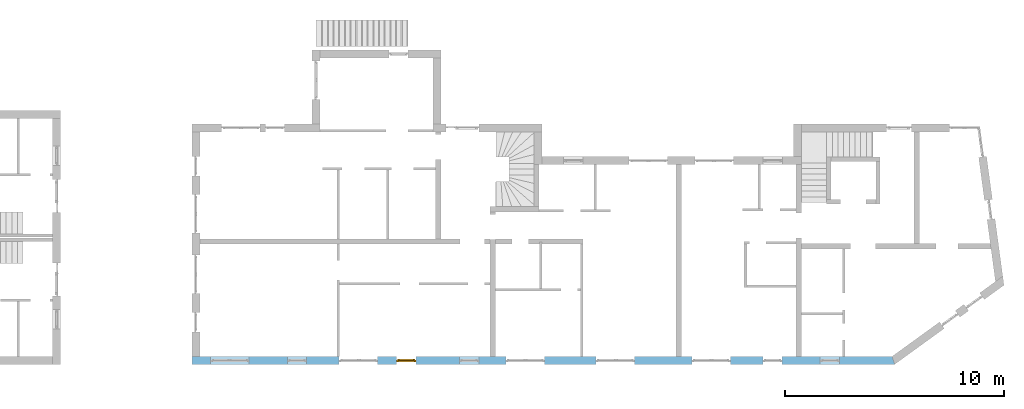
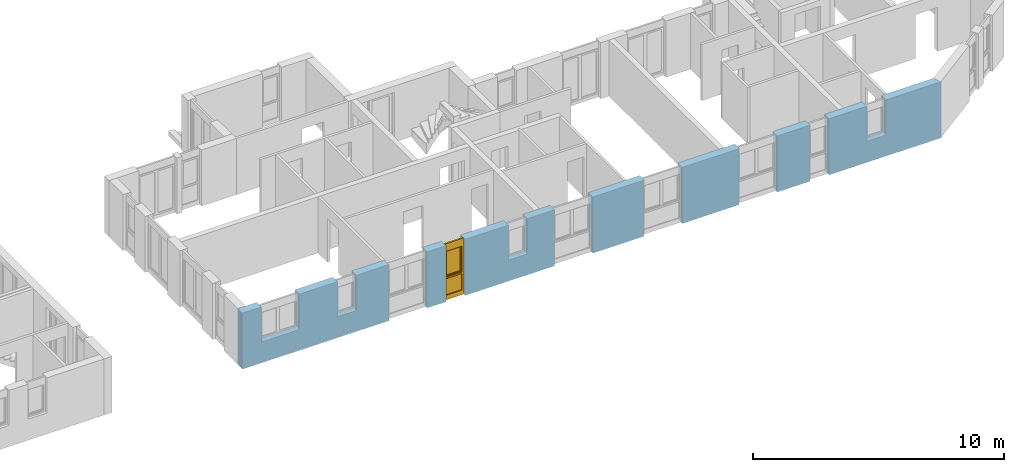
# One storey, part 28 of 41: 1 window, 10 openings, plus 1 element that does not belong to this part.
"""IFC2X3 building model written with IfcOpenShell, lengths in millimetres."""

import ifcopenshell
import ifcopenshell.guid

model = None  # the IFC model being written
_history = None  # IfcOwnerHistory: only IFC2X3 demands one
_inside = {}  # id of a spatial element -> (the spatial element, [elements in it])
_under = {}  # id of a project, library or spatial element -> (it, [spatial elements below it])
_declared = {}  # id of a project -> (the project, [libraries it declares])
_typed = {}  # id of a type object -> (the type object, [elements of that type])
_made_of = {}  # id of a material, layer set ... -> (it, [elements and type objects made of it])


def new_model(schema):
    """Start an empty IFC model of exactly this schema.

    Asked for "IFC4X3", IfcOpenShell would pick the latest addendum, in which some entities
    have other attributes; the version numbers below select the first issue.
    IFC2X3 requires an IfcOwnerHistory on every rooted entity: one is made here for all.
    """
    global model, _history
    if schema == "IFC4X3":
        model = ifcopenshell.file(schema_version=(4, 3, 0, 0))
    else:
        model = ifcopenshell.file(schema=schema)
    _inside.clear()
    _under.clear()
    _declared.clear()
    _typed.clear()
    _made_of.clear()
    _history = None
    if model.schema == "IFC2X3":
        org = make("IfcOrganization", Name="unknown")
        user = make(
            "IfcPersonAndOrganization",
            ThePerson=make("IfcPerson", FamilyName="unknown"),
            TheOrganization=org,
        )
        app = make(
            "IfcApplication",
            ApplicationDeveloper=org,
            Version="unknown",
            ApplicationFullName="unknown",
            ApplicationIdentifier="unknown",
        )
        _history = make(
            "IfcOwnerHistory",
            OwningUser=user,
            OwningApplication=app,
            ChangeAction="ADDED",
            CreationDate=0,
        )
    return model


def make(cls, **values):
    """One entity of the class cls with the attributes given. An attribute that is None is left unset."""
    return model.create_entity(
        cls, **{name: value for name, value in values.items() if value is not None}
    )


def entity(cls, *values):
    """Any entity or typed value of the class cls, its attributes in the order of the schema. None: left unset."""
    e = model.create_entity(cls)
    for i, value in enumerate(values):
        if value is not None:
            e[i] = value
    return e


def rooted(cls, **values):
    """An entity with a GlobalId (a new one), such as an element, a storey or a relation."""
    return make(cls, GlobalId=ifcopenshell.guid.new(), OwnerHistory=_history, **values)


def si_unit(unit_type, name, prefix=None):
    """IfcSIUnit, for example si_unit("LENGTHUNIT", "METRE", prefix="MILLI")."""
    return make("IfcSIUnit", UnitType=unit_type, Prefix=prefix, Name=name)


def converted_unit(unit_type, name, factor, base, dimensions=None, offset=None):
    """IfcConversionBasedUnit, such as the inch: factor (a typed value) times the base unit."""
    return make(
        "IfcConversionBasedUnit"
        if offset is None
        else "IfcConversionBasedUnitWithOffset",
        ConversionOffset=offset,
        Dimensions=None
        if dimensions is None
        else entity("IfcDimensionalExponents", *dimensions),
        UnitType=unit_type,
        Name=name,
        ConversionFactor=make(
            "IfcMeasureWithUnit", ValueComponent=factor, UnitComponent=base
        ),
    )


def assignment(units):
    """IfcUnitAssignment: the units of a project."""
    return None if units is None else make("IfcUnitAssignment", Units=units)


def point(xyz):
    """IfcCartesianPoint."""
    return None if xyz is None else make("IfcCartesianPoint", Coordinates=xyz)


def direction(xyz):
    """IfcDirection."""
    return None if xyz is None else make("IfcDirection", DirectionRatios=xyz)


def frame(location, z_axis=None, x_axis=None):
    """IfcAxis2Placement3D, a coordinate frame: its origin and axes. An axis left out is left unset."""
    return make(
        "IfcAxis2Placement3D",
        Location=point(location),
        Axis=direction(z_axis),
        RefDirection=direction(x_axis),
    )


def frame_2d(location, x_axis=None):
    """IfcAxis2Placement2D, a coordinate frame in the plane: its origin and x axis."""
    return make(
        "IfcAxis2Placement2D", Location=point(location), RefDirection=direction(x_axis)
    )


def origin():
    """The frame at (0, 0, 0) with its axes left unset."""
    return frame((0.0, 0.0, 0.0))


def origin_with_axes():
    """The frame at (0, 0, 0) with the z axis (0, 0, 1) and the x axis (1, 0, 0) written out."""
    return frame((0.0, 0.0, 0.0), z_axis=(0.0, 0.0, 1.0), x_axis=(1.0, 0.0, 0.0))


def place(relative_to, where):
    """IfcLocalPlacement: puts the frame where relative to a parent placement (None: the world)."""
    return make(
        "IfcLocalPlacement", PlacementRelTo=relative_to, RelativePlacement=where
    )


def context(
    kind, dimensions, precision=None, world=None, true_north=None, identifier=None
):
    """IfcGeometricRepresentationContext, for example the 3D "Model" context."""
    return make(
        "IfcGeometricRepresentationContext",
        ContextIdentifier=identifier,
        ContextType=kind,
        CoordinateSpaceDimension=dimensions,
        Precision=precision,
        WorldCoordinateSystem=world,
        TrueNorth=true_north,
    )


def subcontext(parent, identifier, kind, view, scale=None):
    """IfcGeometricRepresentationSubContext, for example "Body" below "Model"."""
    return make(
        "IfcGeometricRepresentationSubContext",
        ContextIdentifier=identifier,
        ContextType=kind,
        ParentContext=parent,
        TargetScale=scale,
        TargetView=view,
    )


def project(units=None, contexts=None):
    """IfcProject with its units and contexts."""
    return rooted(
        "IfcProject",
        Name="project",
        RepresentationContexts=contexts,
        UnitsInContext=assignment(units),
    )


def spatial(cls, under=None, at=None, **own):
    """A site, building, storey or space (cls), placed at a placement, below another one or the project."""
    s = rooted(cls, ObjectPlacement=at, **own)
    if under is not None:
        _under.setdefault(under.id(), (under, []))[1].append(s)
    return s


def polyline(points):
    """IfcPolyline through the points."""
    return make("IfcPolyline", Points=[point(p) for p in points])


def profile(cls, at=None, kind="AREA", **sizes):
    """A parametric profile (cls). Its sizes go by their IFC names, for example OverallWidth=200.0."""
    return make(cls, ProfileType=kind, Position=at, **sizes)


def rectangle(**sizes):
    """IfcRectangleProfileDef."""
    return profile("IfcRectangleProfileDef", **sizes)


def outline(outer, holes=None, kind="AREA"):
    """IfcArbitraryClosedProfileDef: a profile drawn as a closed curve; with holes, ...WithVoids."""
    if holes is None:
        return make("IfcArbitraryClosedProfileDef", ProfileType=kind, OuterCurve=outer)
    return make(
        "IfcArbitraryProfileDefWithVoids",
        ProfileType=kind,
        OuterCurve=outer,
        InnerCurves=holes,
    )


def extrude(swept, where, along, depth):
    """IfcExtrudedAreaSolid: the profile swept, set in the frame where, extruded along a direction by depth."""
    return make(
        "IfcExtrudedAreaSolid",
        SweptArea=swept,
        Position=where,
        ExtrudedDirection=direction(along),
        Depth=depth,
    )


def faces_of(points, faces, orient=None, outer=None):
    """IfcFace entities. A face is a list of loops; a loop is a list of indices into points, from 0.

    orient and outer hold one flag for each loop. By default every Orientation is true, the
    first loop of a face is its IfcFaceOuterBound and the others are IfcFaceBound.
    """
    made = []
    for i, loops in enumerate(faces):
        bounds = []
        for j, loop in enumerate(loops):
            is_outer = j == 0 if outer is None else outer[i][j]
            bounds.append(
                make(
                    "IfcFaceOuterBound" if is_outer else "IfcFaceBound",
                    Bound=make("IfcPolyLoop", Polygon=[points[k] for k in loop]),
                    Orientation=True if orient is None else orient[i][j],
                )
            )
        made.append(make("IfcFace", Bounds=bounds))
    return made


def faceted_brep(points, faces, orient=None, outer=None, voids=None):
    """IfcFacetedBrep: a solid bounded by flat faces; with voids (closed shells), ...WithVoids."""
    shared = [point(p) for p in points]
    hull = make("IfcClosedShell", CfsFaces=faces_of(shared, faces, orient, outer))
    if voids is None:
        return make("IfcFacetedBrep", Outer=hull)
    return make(
        "IfcFacetedBrepWithVoids",
        Outer=hull,
        Voids=[
            make(cls, CfsFaces=faces_of(shared, fs, o, b)) for cls, fs, o, b in voids
        ],
    )


def shape(context_of_items, identifier, shape_type, items):
    """IfcShapeRepresentation: the items that make up one representation, for example the "Body"."""
    return make(
        "IfcShapeRepresentation",
        ContextOfItems=context_of_items,
        RepresentationIdentifier=identifier,
        RepresentationType=shape_type,
        Items=items,
    )


def material(Name=None, Category=None):
    """IfcMaterial."""
    return make("IfcMaterial", Name=Name, Category=Category)


def layer(
    of_material, thickness, ventilated=None, Name=None, Category=None, Priority=None
):
    """IfcMaterialLayer: one layer of a wall or slab, of a material (None: an air gap)."""
    return make(
        "IfcMaterialLayer",
        Material=of_material,
        LayerThickness=thickness,
        IsVentilated=ventilated,
        Name=Name,
        Category=Category,
        Priority=Priority,
    )


def layer_set(layers, Name=None):
    """IfcMaterialLayerSet."""
    return make("IfcMaterialLayerSet", MaterialLayers=layers, LayerSetName=Name)


def layer_usage(for_layer_set, set_direction, sense, offset, extent=None):
    """IfcMaterialLayerSetUsage: how a layer set lies in its element."""
    return make(
        "IfcMaterialLayerSetUsage",
        ForLayerSet=for_layer_set,
        LayerSetDirection=set_direction,
        DirectionSense=sense,
        OffsetFromReferenceLine=offset,
        ReferenceExtent=extent,
    )


def made_of(thing, what):
    """Note that an element or type object is made of a material, layer set ...; save() writes the relation."""
    if what is not None:
        _made_of.setdefault(what.id(), (what, []))[1].append(thing)
    return thing


def type_object(cls, material=None, **own):
    """A type object (cls), such as IfcWallType, which elements share."""
    return made_of(rooted(cls, **own), material)


def element(
    cls,
    number,
    at=None,
    inside=None,
    cuts=None,
    type_object=None,
    material=None,
    context=None,
    identifier="Body",
    shape_type=None,
    held_by="IfcProductDefinitionShape",
    body=None,
    shapes=None,
    **own,
):
    """One element of the class cls, such as IfcWall. Its Tag is "e" and its number.

    at: its placement. inside: the storey or other place that contains it. cuts: it is an
    opening in that element (IfcRelVoidsElement). A single representation is given by context,
    identifier, shape_type and body (its items); several are given by shapes. held_by: the class
    of the entity that holds the representations. save() writes the other relations.
    """
    e = rooted(cls, Tag="e%d" % number, ObjectPlacement=at, **own)
    if body is not None:
        shapes = [shape(context, identifier, shape_type, body)]
    if shapes is not None:
        e.Representation = make(held_by, Representations=shapes)
    if inside is not None:
        _inside.setdefault(inside.id(), (inside, []))[1].append(e)
    if cuts is not None:
        rooted(
            "IfcRelVoidsElement", RelatingBuildingElement=cuts, RelatedOpeningElement=e
        )
    if type_object is not None:
        _typed.setdefault(type_object.id(), (type_object, []))[1].append(e)
    return made_of(e, material)


def fill(opening, filler):
    """IfcRelFillsElement: the door or window that sits in an opening."""
    return rooted(
        "IfcRelFillsElement",
        RelatingOpeningElement=opening,
        RelatedBuildingElement=filler,
    )


def aggregate(whole, parts):
    """IfcRelAggregates: a whole, such as a stair, and the parts it consists of."""
    return rooted("IfcRelAggregates", RelatingObject=whole, RelatedObjects=parts)


def save(model, path):
    """Write the relations noted so far, then the file.

    IfcRelAggregates (storeys below a building ...), IfcRelContainedInSpatialStructure (elements
    in a storey), IfcRelDefinesByType, IfcRelAssociatesMaterial and IfcRelDeclares: one each for
    every whole, place, type object, material and project.
    """
    for whole, parts in _under.values():
        aggregate(whole, parts)
    for where, things in _inside.values():
        rooted(
            "IfcRelContainedInSpatialStructure",
            RelatedElements=things,
            RelatingStructure=where,
        )
    for kind, things in _typed.values():
        rooted("IfcRelDefinesByType", RelatedObjects=things, RelatingType=kind)
    for what, things in _made_of.values():
        rooted("IfcRelAssociatesMaterial", RelatedObjects=things, RelatingMaterial=what)
    for by, libraries in _declared.values():
        rooted("IfcRelDeclares", RelatingContext=by, RelatedDefinitions=libraries)
    model.write(path)


model = new_model("IFC2X3")

# Units and contexts
model_context = context("Model", 3, precision=1e-05, world=origin())
body_context = subcontext(model_context, "Body", "Model", "MODEL_VIEW")
ifc_project = project(units=[si_unit("LENGTHUNIT", "METRE", prefix="MILLI"), converted_unit("PLANEANGLEUNIT", "DEGREE", entity("IfcPlaneAngleMeasure", 0.0174532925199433), si_unit("PLANEANGLEUNIT", "RADIAN"), dimensions=[0, 0, 0, 0, 0, 0, 0]), si_unit("AREAUNIT", "SQUARE_METRE"), si_unit("VOLUMEUNIT", "CUBIC_METRE")], contexts=[model_context])

# Building, storey
building_placement = place(None, origin())
building = spatial("IfcBuilding", under=ifc_project, at=building_placement, Name="Gebäude", CompositionType="ELEMENT")
storey_placement = place(building_placement, frame((0.0, 0.0, -200.0), z_axis=(0.0, 0.0, 1.0), x_axis=(1.0, 0.0, 0.0)))
storey = spatial("IfcBuildingStorey", under=building, at=storey_placement, Name="EG.- Grundriss", CompositionType="ELEMENT", Elevation=-200.0)

# Wall, openings, window
ifc_material_1 = material(Name="Poroton")
ifc_layer = layer(ifc_material_1, 365.0000000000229)
ifc_layer_set = layer_set([ifc_layer])
ifc_layer_usage = layer_usage(ifc_layer_set, "AXIS2", "POSITIVE", 0.0)
wall_placement = place(storey_placement, frame((148357.7928067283, 125274.8877324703, 0.0), z_axis=(0.0, 0.0, 1.0), x_axis=(1.0, -2.749268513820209e-11, 0.0)))
wall = element("IfcWallStandardCase", 1, at=wall_placement, inside=storey, material=ifc_layer_usage, Name="<Unnamed Element>", context=body_context, shape_type="SweptSolid", body=[
    extrude(outline(polyline([(0.0, 0.0), (32144.99999877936, 0.0), (32026.74038666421, 365.0000000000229), (-1.003483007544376e-08, 365.0), (0.0, 0.0)])), origin_with_axes(), (0.0, 0.0, 1.0), 2730.0),
])
opening_1_placement = place(wall_placement, frame((28740.29648749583, -1.103025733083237e-10, 1020.0), z_axis=(0.0, 1.0, 0.0), x_axis=(0.0, 0.0, 1.0)))
element("IfcOpeningElement", 2, at=opening_1_placement, cuts=wall, Name="Fensteröffnung", ObjectType="Opening", context=body_context, shape_type="SweptSolid", body=[
    extrude(rectangle(XDim=1710.0, YDim=885.0, at=frame_2d((855.0, 442.5), x_axis=(1.0, 0.0))), origin_with_axes(), (0.0, 0.0, 1.0), 365.0000000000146),
])
opening_2_placement = place(wall_placement, frame((26115.29648749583, -1.048456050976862e-10, 0.0), z_axis=(0.0, 1.0, 0.0), x_axis=(0.0, 0.0, 1.0)))
element("IfcOpeningElement", 3, at=opening_2_placement, cuts=wall, Name="Fensteröffnung", ObjectType="Opening", context=body_context, shape_type="SweptSolid", body=[
    extrude(rectangle(XDim=2730.0, YDim=885.0, at=frame_2d((1365.0, 442.5), x_axis=(1.0, 0.0))), origin_with_axes(), (0.0, 0.0, 1.0), 365.0000000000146),
])
opening_3_placement = place(wall_placement, frame((22865.29648749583, -7.937975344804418e-11, 0.0), z_axis=(0.0, 1.0, 0.0), x_axis=(0.0, 0.0, 1.0)))
element("IfcOpeningElement", 4, at=opening_3_placement, cuts=wall, Name="Fensteröffnung", ObjectType="Opening", context=body_context, shape_type="SweptSolid", body=[
    extrude(rectangle(XDim=2730.0, YDim=1760.0, at=frame_2d((1365.0, 880.0), x_axis=(1.0, 0.0))), origin_with_axes(), (0.0, 0.0, 1.0), 365.0000000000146),
])
opening_4_placement = place(wall_placement, frame((18490.51063065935, -4.984640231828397e-11, 0.0), z_axis=(0.0, 1.0, 0.0), x_axis=(0.0, 0.0, 1.0)))
element("IfcOpeningElement", 5, at=opening_4_placement, cuts=wall, Name="Fensteröffnung", ObjectType="Opening", context=body_context, shape_type="SweptSolid", body=[
    extrude(rectangle(XDim=2730.0, YDim=1760.0, at=frame_2d((1365.0, 880.0), x_axis=(1.0, 0.0))), origin_with_axes(), (0.0, 0.0, 1.0), 365.0000000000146),
])
opening_5_placement = place(wall_placement, frame((14365.26291871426, -7.302655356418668e-11, 0.0), z_axis=(0.0, 1.0, 0.0), x_axis=(0.0, 0.0, 1.0)))
element("IfcOpeningElement", 6, at=opening_5_placement, cuts=wall, Name="Fensteröffnung", ObjectType="Opening", context=body_context, shape_type="SweptSolid", body=[
    extrude(rectangle(XDim=2730.0, YDim=1760.0, at=frame_2d((1365.0, 880.0), x_axis=(1.0, 0.0))), origin_with_axes(), (0.0, 0.0, 1.0), 365.0000000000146),
])
opening_6_placement = place(wall_placement, frame((12240.0, -5.296897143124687e-11, 1020.0), z_axis=(0.0, 1.0, 0.0), x_axis=(0.0, 0.0, 1.0)))
element("IfcOpeningElement", 7, at=opening_6_placement, cuts=wall, Name="Fensteröffnung", ObjectType="Opening", context=body_context, shape_type="SweptSolid", body=[
    extrude(rectangle(XDim=1710.0, YDim=885.0, at=frame_2d((855.0, 442.5), x_axis=(1.0, 0.0))), origin_with_axes(), (0.0, 0.0, 1.0), 365.0000000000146),
])
opening_7_placement = place(wall_placement, frame((9365.0, -3.659806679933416e-11, 0.0), z_axis=(0.0, 1.0, 0.0), x_axis=(0.0, 0.0, 1.0)))
opening_7 = element("IfcOpeningElement", 8, at=opening_7_placement, cuts=wall, Name="Fensteröffnung", ObjectType="Opening", context=body_context, shape_type="SweptSolid", body=[
    extrude(rectangle(XDim=2730.0, YDim=885.0, at=frame_2d((1365.0, 442.5), x_axis=(1.0, 0.0))), origin_with_axes(), (0.0, 0.0, 1.0), 365.0000000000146),
])
opening_8_placement = place(wall_placement, frame((6740.0, -3.114109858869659e-11, 0.0), z_axis=(0.0, 1.0, 0.0), x_axis=(0.0, 0.0, 1.0)))
element("IfcOpeningElement", 9, at=opening_8_placement, cuts=wall, Name="Fensteröffnung", ObjectType="Opening", context=body_context, shape_type="SweptSolid", body=[
    extrude(rectangle(XDim=2730.0, YDim=1760.0, at=frame_2d((1365.0, 880.0), x_axis=(1.0, 0.0))), origin_with_axes(), (0.0, 0.0, 1.0), 365.0000000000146),
])
opening_9_placement = place(wall_placement, frame((4365.0, -7.494236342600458e-12, 1020.0), z_axis=(0.0, 1.0, 0.0), x_axis=(0.0, 0.0, 1.0)))
element("IfcOpeningElement", 10, at=opening_9_placement, cuts=wall, Name="Fensteröffnung", ObjectType="Opening", context=body_context, shape_type="SweptSolid", body=[
    extrude(rectangle(XDim=1710.0, YDim=885.0, at=frame_2d((855.0, 442.5), x_axis=(1.0, 0.0))), origin_with_axes(), (0.0, 0.0, 1.0), 365.0000000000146),
])
opening_10_placement = place(wall_placement, frame((865.0, -2.182787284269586e-13, 1020.0), z_axis=(0.0, 1.0, 0.0), x_axis=(0.0, 0.0, 1.0)))
element("IfcOpeningElement", 11, at=opening_10_placement, cuts=wall, Name="Fensteröffnung", ObjectType="Opening", context=body_context, shape_type="SweptSolid", body=[
    extrude(rectangle(XDim=1710.0, YDim=1760.0, at=frame_2d((854.9999999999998, 880.0), x_axis=(1.0, 0.0))), origin_with_axes(), (0.0, 0.0, 1.0), 365.0000000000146),
])
ifc_material_2 = material()
window_style = type_object("IfcWindowStyle", Name="Fenster", ConstructionType="NOTDEFINED", OperationType="USERDEFINED", ParameterTakesPrecedence=False, Sizeable=False)
window_placement = place(opening_7_placement, frame((0.0, 0.0, 0.0), z_axis=(1.0, 0.0, 0.0), x_axis=(0.0, 1.0, 0.0)))
window = element("IfcWindow", 12, at=window_placement, inside=storey, type_object=window_style, material=ifc_material_2, Name="Fenster", OverallHeight=2730.0, OverallWidth=885.0, context=body_context, shape_type="Brep", body=[
    faceted_brep([(-1.221113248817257e-08, 199.9999999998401, 2730.0), (-1.221113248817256e-08, 199.9999999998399, -2.449293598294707e-15), (69.99999998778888, 200.0000000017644, -2.449293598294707e-15), (69.99999998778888, 200.0000000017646, 2730.0), (-1.001171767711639e-08, 119.9999999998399, 2.449293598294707e-15), (-1.00117176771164e-08, 119.9999999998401, 2730.0), (69.9999999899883, 120.0000000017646, 2730.0), (69.9999999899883, 120.0000000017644, 2.449293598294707e-15), (-1.221113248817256e-08, 199.9999999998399, -2.449293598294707e-15), (-1.221113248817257e-08, 199.9999999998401, 2730.0), (-1.00117176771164e-08, 119.9999999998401, 2730.0), (-1.001171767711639e-08, 119.9999999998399, 2.449293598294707e-15), (69.99999998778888, 200.0000000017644, -2.449293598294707e-15), (-1.221113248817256e-08, 199.9999999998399, -2.449293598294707e-15), (-1.001171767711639e-08, 119.9999999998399, 2.449293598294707e-15), (69.9999999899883, 120.0000000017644, 2.449293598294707e-15), (69.99999998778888, 200.0000000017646, 2730.0), (69.99999998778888, 200.0000000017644, -2.449293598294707e-15), (69.9999999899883, 120.0000000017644, 2.449293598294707e-15), (69.9999999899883, 120.0000000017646, 2730.0), (-1.221113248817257e-08, 199.9999999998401, 2730.0), (69.99999998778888, 200.0000000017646, 2730.0), (69.9999999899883, 120.0000000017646, 2730.0), (-1.00117176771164e-08, 119.9999999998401, 2730.0)], [[[0, 1, 2, 3]], [[4, 5, 6, 7]], [[8, 9, 10, 11]], [[12, 13, 14, 15]], [[16, 17, 18, 19]], [[20, 21, 22, 23]]], orient=[[False], [False], [False], [False], [False], [False]]),
    faceted_brep([(814.999999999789, 200.0000000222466, 2730.0), (814.999999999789, 200.0000000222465, -2.449293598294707e-15), (884.999999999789, 200.000000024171, -2.449293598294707e-15), (884.999999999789, 200.0000000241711, 2730.0), (815.0000000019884, 120.0000000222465, 2.449293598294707e-15), (815.0000000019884, 120.0000000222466, 2730.0), (885.0000000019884, 120.0000000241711, 2730.0), (885.0000000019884, 120.000000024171, 2.449293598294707e-15), (814.999999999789, 200.0000000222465, -2.449293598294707e-15), (814.999999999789, 200.0000000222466, 2730.0), (815.0000000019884, 120.0000000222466, 2730.0), (815.0000000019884, 120.0000000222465, 2.449293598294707e-15), (884.999999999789, 200.000000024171, -2.449293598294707e-15), (814.999999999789, 200.0000000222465, -2.449293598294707e-15), (815.0000000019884, 120.0000000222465, 2.449293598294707e-15), (885.0000000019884, 120.000000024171, 2.449293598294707e-15), (884.999999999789, 200.0000000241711, 2730.0), (884.999999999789, 200.000000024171, -2.449293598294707e-15), (885.0000000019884, 120.000000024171, 2.449293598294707e-15), (885.0000000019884, 120.0000000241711, 2730.0), (814.999999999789, 200.0000000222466, 2730.0), (884.999999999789, 200.0000000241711, 2730.0), (885.0000000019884, 120.0000000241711, 2730.0), (815.0000000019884, 120.0000000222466, 2730.0)], [[[0, 1, 2, 3]], [[4, 5, 6, 7]], [[8, 9, 10, 11]], [[12, 13, 14, 15]], [[16, 17, 18, 19]], [[20, 21, 22, 23]]], orient=[[False], [False], [False], [False], [False], [False]]),
    faceted_brep([(69.99999998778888, 200.0000000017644, 220.0), (69.99999998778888, 200.0000000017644, -2.449293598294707e-15), (814.999999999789, 200.0000000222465, -2.449293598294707e-15), (814.999999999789, 200.0000000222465, 220.0), (69.9999999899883, 120.0000000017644, 2.449293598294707e-15), (69.9999999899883, 120.0000000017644, 220.0), (815.0000000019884, 120.0000000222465, 220.0), (815.0000000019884, 120.0000000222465, 2.449293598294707e-15), (69.99999998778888, 200.0000000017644, -2.449293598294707e-15), (69.99999998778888, 200.0000000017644, 220.0), (69.9999999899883, 120.0000000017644, 220.0), (69.9999999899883, 120.0000000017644, 2.449293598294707e-15), (814.999999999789, 200.0000000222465, -2.449293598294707e-15), (69.99999998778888, 200.0000000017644, -2.449293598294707e-15), (69.9999999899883, 120.0000000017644, 2.449293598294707e-15), (815.0000000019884, 120.0000000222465, 2.449293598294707e-15), (814.999999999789, 200.0000000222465, 220.0), (814.999999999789, 200.0000000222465, -2.449293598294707e-15), (815.0000000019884, 120.0000000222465, 2.449293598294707e-15), (815.0000000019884, 120.0000000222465, 220.0), (69.99999998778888, 200.0000000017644, 220.0), (814.999999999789, 200.0000000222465, 220.0), (815.0000000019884, 120.0000000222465, 220.0), (69.9999999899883, 120.0000000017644, 220.0)], [[[0, 1, 2, 3]], [[4, 5, 6, 7]], [[8, 9, 10, 11]], [[12, 13, 14, 15]], [[16, 17, 18, 19]], [[20, 21, 22, 23]]], orient=[[False], [False], [False], [False], [False], [False]]),
    faceted_brep([(69.99999998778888, 200.0000000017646, 2730.0), (69.99999998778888, 200.0000000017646, 2360.0), (814.999999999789, 200.0000000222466, 2360.0), (814.999999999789, 200.0000000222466, 2730.0), (69.9999999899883, 120.0000000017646, 2360.0), (69.9999999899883, 120.0000000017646, 2730.0), (815.0000000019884, 120.0000000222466, 2730.0), (815.0000000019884, 120.0000000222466, 2360.0), (69.99999998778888, 200.0000000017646, 2360.0), (69.99999998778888, 200.0000000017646, 2730.0), (69.9999999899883, 120.0000000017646, 2730.0), (69.9999999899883, 120.0000000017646, 2360.0), (814.999999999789, 200.0000000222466, 2360.0), (69.99999998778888, 200.0000000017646, 2360.0), (69.9999999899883, 120.0000000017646, 2360.0), (815.0000000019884, 120.0000000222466, 2360.0), (814.999999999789, 200.0000000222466, 2730.0), (814.999999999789, 200.0000000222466, 2360.0), (815.0000000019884, 120.0000000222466, 2360.0), (815.0000000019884, 120.0000000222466, 2730.0), (69.99999998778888, 200.0000000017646, 2730.0), (814.999999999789, 200.0000000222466, 2730.0), (815.0000000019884, 120.0000000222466, 2730.0), (69.9999999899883, 120.0000000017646, 2730.0)], [[[0, 1, 2, 3]], [[4, 5, 6, 7]], [[8, 9, 10, 11]], [[12, 13, 14, 15]], [[16, 17, 18, 19]], [[20, 21, 22, 23]]], orient=[[False], [False], [False], [False], [False], [False]]),
    faceted_brep([(69.99999998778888, 200.0000000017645, 1090.0), (69.99999998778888, 200.0000000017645, 1020.0), (814.999999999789, 200.0000000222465, 1020.0), (814.999999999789, 200.0000000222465, 1090.0), (69.9999999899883, 120.0000000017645, 1020.0), (69.9999999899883, 120.0000000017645, 1090.0), (815.0000000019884, 120.0000000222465, 1090.0), (815.0000000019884, 120.0000000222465, 1020.0), (69.99999998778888, 200.0000000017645, 1020.0), (69.99999998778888, 200.0000000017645, 1090.0), (69.9999999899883, 120.0000000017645, 1090.0), (69.9999999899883, 120.0000000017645, 1020.0), (814.999999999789, 200.0000000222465, 1020.0), (69.99999998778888, 200.0000000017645, 1020.0), (69.9999999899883, 120.0000000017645, 1020.0), (815.0000000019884, 120.0000000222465, 1020.0), (814.999999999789, 200.0000000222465, 1090.0), (814.999999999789, 200.0000000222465, 1020.0), (815.0000000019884, 120.0000000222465, 1020.0), (815.0000000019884, 120.0000000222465, 1090.0), (69.99999998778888, 200.0000000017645, 1090.0), (814.999999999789, 200.0000000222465, 1090.0), (815.0000000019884, 120.0000000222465, 1090.0), (69.9999999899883, 120.0000000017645, 1090.0)], [[[0, 1, 2, 3]], [[4, 5, 6, 7]], [[8, 9, 10, 11]], [[12, 13, 14, 15]], [[16, 17, 18, 19]], [[20, 21, 22, 23]]], orient=[[False], [False], [False], [False], [False], [False]]),
    faceted_brep([(69.99999998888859, 160.0000000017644, 220.0), (815.0000000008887, 160.0000000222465, 220.0), (815.0000000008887, 160.0000000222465, 1020.0), (69.99999998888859, 160.0000000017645, 1020.0), (69.99999998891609, 159.0000000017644, 220.0), (69.99999998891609, 159.0000000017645, 1020.0), (815.0000000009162, 159.0000000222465, 1020.0), (815.0000000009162, 159.0000000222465, 220.0), (69.99999998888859, 160.0000000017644, 220.0), (69.99999998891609, 159.0000000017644, 220.0), (815.0000000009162, 159.0000000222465, 220.0), (815.0000000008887, 160.0000000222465, 220.0), (815.0000000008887, 160.0000000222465, 220.0), (815.0000000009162, 159.0000000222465, 220.0), (815.0000000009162, 159.0000000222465, 1020.0), (815.0000000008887, 160.0000000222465, 1020.0), (815.0000000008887, 160.0000000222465, 1020.0), (815.0000000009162, 159.0000000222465, 1020.0), (69.99999998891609, 159.0000000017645, 1020.0), (69.99999998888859, 160.0000000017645, 1020.0), (69.99999998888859, 160.0000000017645, 1020.0), (69.99999998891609, 159.0000000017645, 1020.0), (69.99999998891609, 159.0000000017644, 220.0), (69.99999998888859, 160.0000000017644, 220.0)], [[[0, 1, 2, 3]], [[4, 5, 6, 7]], [[8, 9, 10, 11]], [[12, 13, 14, 15]], [[16, 17, 18, 19]], [[20, 21, 22, 23]]], orient=[[False], [False], [False], [False], [False], [False]]),
    faceted_brep([(49.99999998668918, 240.0000000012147, 2380.0), (49.99999998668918, 240.0000000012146, 1070.0), (119.9999999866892, 240.0000000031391, 1070.0), (119.9999999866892, 240.0000000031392, 2380.0), (49.99999998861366, 170.0000000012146, 1070.0), (49.99999998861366, 170.0000000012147, 2380.0), (119.9999999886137, 170.0000000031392, 2380.0), (119.9999999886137, 170.0000000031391, 1070.0), (49.99999998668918, 240.0000000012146, 1070.0), (49.99999998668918, 240.0000000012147, 2380.0), (49.99999998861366, 170.0000000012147, 2380.0), (49.99999998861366, 170.0000000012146, 1070.0), (119.9999999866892, 240.0000000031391, 1070.0), (49.99999998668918, 240.0000000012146, 1070.0), (49.99999998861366, 170.0000000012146, 1070.0), (119.9999999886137, 170.0000000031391, 1070.0), (119.9999999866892, 240.0000000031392, 2380.0), (119.9999999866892, 240.0000000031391, 1070.0), (119.9999999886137, 170.0000000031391, 1070.0), (119.9999999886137, 170.0000000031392, 2380.0), (49.99999998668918, 240.0000000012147, 2380.0), (119.9999999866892, 240.0000000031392, 2380.0), (119.9999999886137, 170.0000000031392, 2380.0), (49.99999998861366, 170.0000000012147, 2380.0)], [[[0, 1, 2, 3]], [[4, 5, 6, 7]], [[8, 9, 10, 11]], [[12, 13, 14, 15]], [[16, 17, 18, 19]], [[20, 21, 22, 23]]], orient=[[False], [False], [False], [False], [False], [False]]),
    faceted_brep([(764.9999999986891, 240.000000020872, 2380.0), (764.9999999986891, 240.0000000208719, 1070.0), (834.9999999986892, 240.0000000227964, 1070.0), (834.9999999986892, 240.0000000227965, 2380.0), (765.0000000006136, 170.0000000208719, 1070.0), (765.0000000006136, 170.000000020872, 2380.0), (835.0000000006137, 170.0000000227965, 2380.0), (835.0000000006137, 170.0000000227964, 1070.0), (764.9999999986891, 240.0000000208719, 1070.0), (764.9999999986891, 240.000000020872, 2380.0), (765.0000000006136, 170.000000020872, 2380.0), (765.0000000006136, 170.0000000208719, 1070.0), (834.9999999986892, 240.0000000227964, 1070.0), (764.9999999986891, 240.0000000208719, 1070.0), (765.0000000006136, 170.0000000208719, 1070.0), (835.0000000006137, 170.0000000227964, 1070.0), (834.9999999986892, 240.0000000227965, 2380.0), (834.9999999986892, 240.0000000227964, 1070.0), (835.0000000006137, 170.0000000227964, 1070.0), (835.0000000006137, 170.0000000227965, 2380.0), (764.9999999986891, 240.000000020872, 2380.0), (834.9999999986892, 240.0000000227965, 2380.0), (835.0000000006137, 170.0000000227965, 2380.0), (765.0000000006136, 170.000000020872, 2380.0)], [[[0, 1, 2, 3]], [[4, 5, 6, 7]], [[8, 9, 10, 11]], [[12, 13, 14, 15]], [[16, 17, 18, 19]], [[20, 21, 22, 23]]], orient=[[False], [False], [False], [False], [False], [False]]),
    faceted_brep([(119.9999999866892, 240.0000000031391, 1140.0), (119.9999999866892, 240.0000000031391, 1070.0), (764.9999999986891, 240.0000000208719, 1070.0), (764.9999999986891, 240.0000000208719, 1140.0), (119.9999999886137, 170.0000000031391, 1070.0), (119.9999999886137, 170.0000000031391, 1140.0), (765.0000000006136, 170.0000000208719, 1140.0), (765.0000000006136, 170.0000000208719, 1070.0), (119.9999999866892, 240.0000000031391, 1070.0), (119.9999999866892, 240.0000000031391, 1140.0), (119.9999999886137, 170.0000000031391, 1140.0), (119.9999999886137, 170.0000000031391, 1070.0), (764.9999999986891, 240.0000000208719, 1070.0), (119.9999999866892, 240.0000000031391, 1070.0), (119.9999999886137, 170.0000000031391, 1070.0), (765.0000000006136, 170.0000000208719, 1070.0), (764.9999999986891, 240.0000000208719, 1140.0), (764.9999999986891, 240.0000000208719, 1070.0), (765.0000000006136, 170.0000000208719, 1070.0), (765.0000000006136, 170.0000000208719, 1140.0), (119.9999999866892, 240.0000000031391, 1140.0), (764.9999999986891, 240.0000000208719, 1140.0), (765.0000000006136, 170.0000000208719, 1140.0), (119.9999999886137, 170.0000000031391, 1140.0)], [[[0, 1, 2, 3]], [[4, 5, 6, 7]], [[8, 9, 10, 11]], [[12, 13, 14, 15]], [[16, 17, 18, 19]], [[20, 21, 22, 23]]], orient=[[False], [False], [False], [False], [False], [False]]),
    faceted_brep([(119.9999999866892, 240.0000000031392, 2380.0), (119.9999999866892, 240.0000000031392, 2310.0), (764.9999999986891, 240.000000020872, 2310.0), (764.9999999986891, 240.000000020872, 2380.0), (119.9999999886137, 170.0000000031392, 2310.0), (119.9999999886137, 170.0000000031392, 2380.0), (765.0000000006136, 170.000000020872, 2380.0), (765.0000000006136, 170.000000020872, 2310.0), (119.9999999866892, 240.0000000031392, 2310.0), (119.9999999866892, 240.0000000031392, 2380.0), (119.9999999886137, 170.0000000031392, 2380.0), (119.9999999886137, 170.0000000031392, 2310.0), (764.9999999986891, 240.000000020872, 2310.0), (119.9999999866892, 240.0000000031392, 2310.0), (119.9999999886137, 170.0000000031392, 2310.0), (765.0000000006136, 170.000000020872, 2310.0), (764.9999999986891, 240.000000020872, 2380.0), (764.9999999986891, 240.000000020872, 2310.0), (765.0000000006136, 170.000000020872, 2310.0), (765.0000000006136, 170.000000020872, 2380.0), (119.9999999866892, 240.0000000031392, 2380.0), (764.9999999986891, 240.000000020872, 2380.0), (765.0000000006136, 170.000000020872, 2380.0), (119.9999999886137, 170.0000000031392, 2380.0)], [[[0, 1, 2, 3]], [[4, 5, 6, 7]], [[8, 9, 10, 11]], [[12, 13, 14, 15]], [[16, 17, 18, 19]], [[20, 21, 22, 23]]], orient=[[False], [False], [False], [False], [False], [False]]),
    faceted_brep([(119.9999999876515, 205.0000000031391, 1140.0), (764.9999999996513, 205.0000000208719, 1140.0), (764.9999999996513, 205.000000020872, 2310.0), (119.9999999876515, 205.0000000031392, 2310.0), (119.999999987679, 204.0000000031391, 1140.0), (119.999999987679, 204.0000000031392, 2310.0), (764.9999999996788, 204.000000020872, 2310.0), (764.9999999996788, 204.0000000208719, 1140.0), (119.9999999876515, 205.0000000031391, 1140.0), (119.999999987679, 204.0000000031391, 1140.0), (764.9999999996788, 204.0000000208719, 1140.0), (764.9999999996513, 205.0000000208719, 1140.0), (764.9999999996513, 205.0000000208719, 1140.0), (764.9999999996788, 204.0000000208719, 1140.0), (764.9999999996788, 204.000000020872, 2310.0), (764.9999999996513, 205.000000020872, 2310.0), (764.9999999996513, 205.000000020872, 2310.0), (764.9999999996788, 204.000000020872, 2310.0), (119.999999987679, 204.0000000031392, 2310.0), (119.9999999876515, 205.0000000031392, 2310.0), (119.9999999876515, 205.0000000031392, 2310.0), (119.999999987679, 204.0000000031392, 2310.0), (119.999999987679, 204.0000000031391, 1140.0), (119.9999999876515, 205.0000000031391, 1140.0)], [[[0, 1, 2, 3]], [[4, 5, 6, 7]], [[8, 9, 10, 11]], [[12, 13, 14, 15]], [[16, 17, 18, 19]], [[20, 21, 22, 23]]], orient=[[False], [False], [False], [False], [False], [False]]),
])
fill(opening_7, window)

save(model, "model.ifc")
